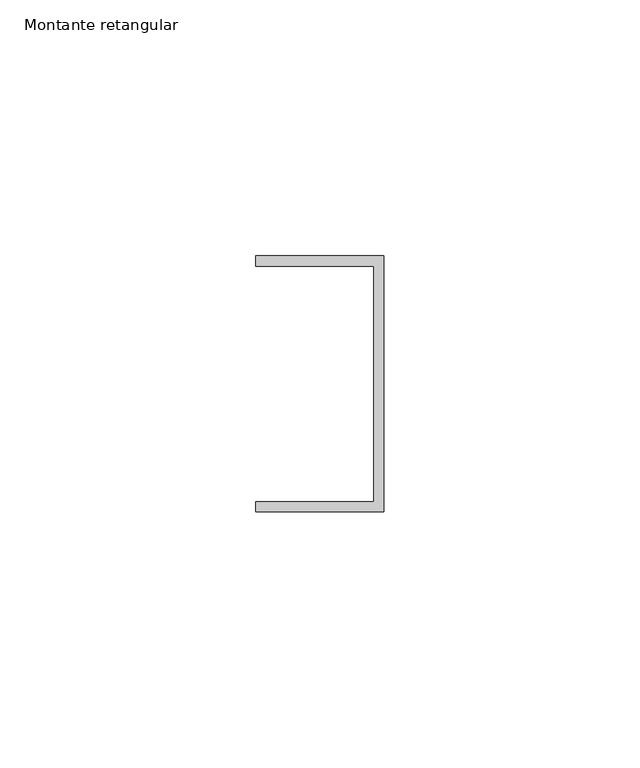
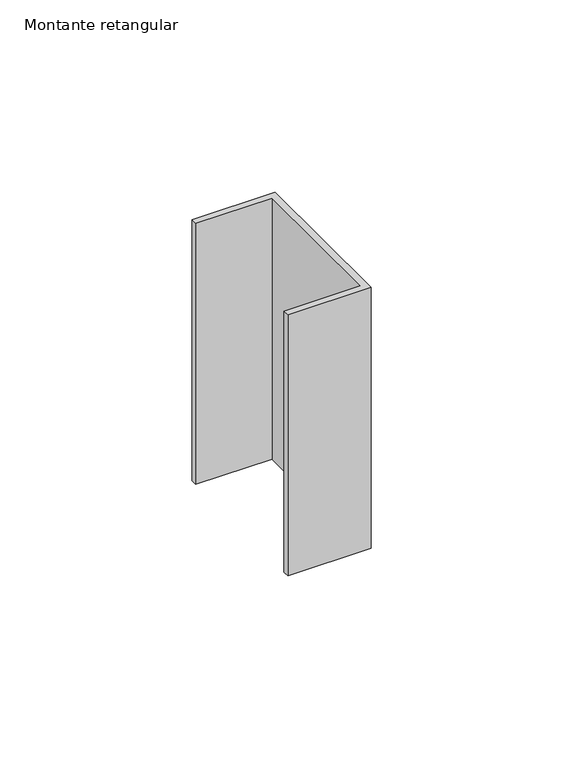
"""IFC4 building model written with IfcOpenShell, lengths in millimetres: member geometry, Montante retangular : FDE_MontanteVenezianaIndustrial_BordaOpção1_Ref50 (Alumínio Anodizado)."""

from ifc_helpers import new_model, si_unit, frame, origin, place, context, project, spatial, polyline, outline, extrude, source, transform, mapped, element, save


def montante_retangular_c959cb71(model_context):
    return source(origin(), model_context, "Body", "SweptSolid", [
        extrude(outline(polyline([(0.0, 25.0), (0.0, -25.0), (-25.0, -25.0), (-25.0, -23.0), (-2.0, -23.0), (-2.0, 23.0), (-25.0, 23.0), (-25.0, 25.0), (0.0, 25.0)])), frame((0.0, 0.0, -83.0), z_axis=(0.0, 0.0, 1.0), x_axis=(1.0, 0.0, 0.0)), (0.0, 0.0, 1.0), 83.0),
    ])


if __name__ == "__main__":
    model = new_model("IFC4")
    model_context = context("Model", 3, world=origin())
    ifc_project = project(units=[si_unit("LENGTHUNIT", "METRE", prefix="MILLI")], contexts=[model_context])
    site = spatial("IfcSite", under=ifc_project)
    building = spatial("IfcBuilding", under=site)
    placement = place(None, origin())
    montante_retangular_shape = montante_retangular_c959cb71(model_context)
    element("IfcMember", 1, ObjectType="Montante retangular : FDE_MontanteVenezianaIndustrial_BordaOpção1_Ref50 (Alumínio Anodizado)", at=placement, inside=building, context=model_context, shape_type="MappedRepresentation", body=[
        mapped(montante_retangular_shape, transform((0.0, 0.0, 0.0), x_axis=(1.0, 0.0, 0.0), y_axis=(0.0, 1.0, 0.0), z_axis=(0.0, 0.0, 1.0))),
    ])
    save(model, "model.ifc")
